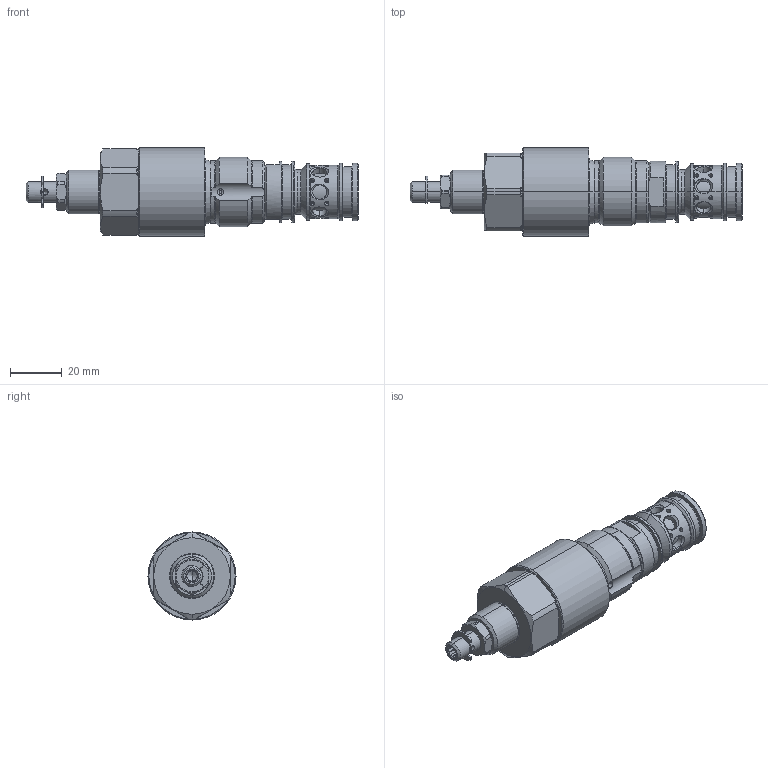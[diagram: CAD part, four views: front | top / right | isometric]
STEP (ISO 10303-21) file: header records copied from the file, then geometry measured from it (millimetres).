
FILE_DESCRIPTION (( 'STEP AP214' ), '1' );
FILE_NAME ('2_5_673.STEP', '2025-07-22T07:24:21', ( '' ), ( '' ), 'SwSTEP 2.0', 'SolidWorks 2024', '' );
FILE_SCHEMA (( 'AUTOMOTIVE_DESIGN' ));
Length unit declared in the file: millimetre
Products named in the file (1): 2_5_673
Bounding box: 128.17 x 34 x 34 mm (x, y, z)
Volume: 60804.5 mm3; surface area: 13269.2 mm2
Topology: 1 solids, 2 shells, 401 faces, 976 edges, 595 vertices
Faces by surface type: cylinder 174, cone 115, plane 66, torus 46
Entity records: 13532 total; most frequent: CARTESIAN_POINT 4313, ORIENTED_EDGE 1944, DIRECTION 1929, EDGE_CURVE 972, AXIS2_PLACEMENT_3D 807, VERTEX_POINT 595, EDGE_LOOP 427, CIRCLE 405
